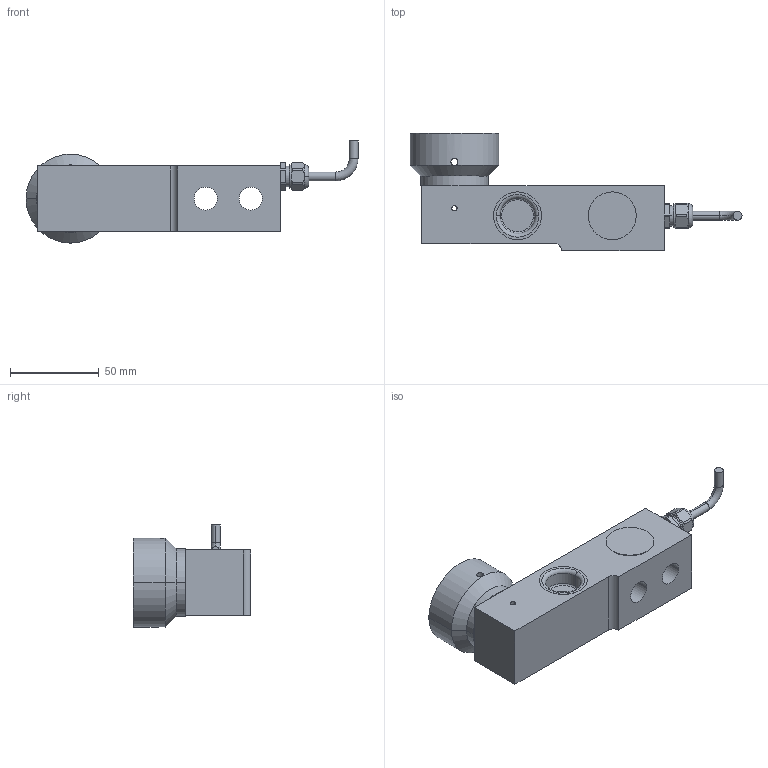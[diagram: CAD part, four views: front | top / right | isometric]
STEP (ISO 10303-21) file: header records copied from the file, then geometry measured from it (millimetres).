
FILE_DESCRIPTION((''),'2;1');
FILE_NAME('72208662-0745A-2200KG_SW0010','2014-07-28T',('wang-379'),(''),'PRO/ENGINEER BY PARAMETRIC TECHNOLOGY CORPORATION, 2013320','PRO/ENGINEER BY PARAMETRIC TECHNOLOGY CORPORATION, 2013320','');
FILE_SCHEMA(('CONFIG_CONTROL_DESIGN'));
Length unit declared in the file: millimetre
Products named in the file (1): 72208662-0745A-2200KG_SW0010
Bounding box: 187 x 65.99 x 57.47 mm (x, y, z)
Volume: 199035.2 mm3; surface area: 38837.7 mm2
Topology: 2 solids, 2 shells, 141 faces, 342 edges, 212 vertices
Faces by surface type: cylinder 57, plane 44, cone 22, torus 18
Entity records: 4624 total; most frequent: CARTESIAN_POINT 1207, DIRECTION 752, ORIENTED_EDGE 676, EDGE_CURVE 338, AXIS2_PLACEMENT_3D 309, VERTEX_POINT 212, CIRCLE 168, EDGE_LOOP 164
